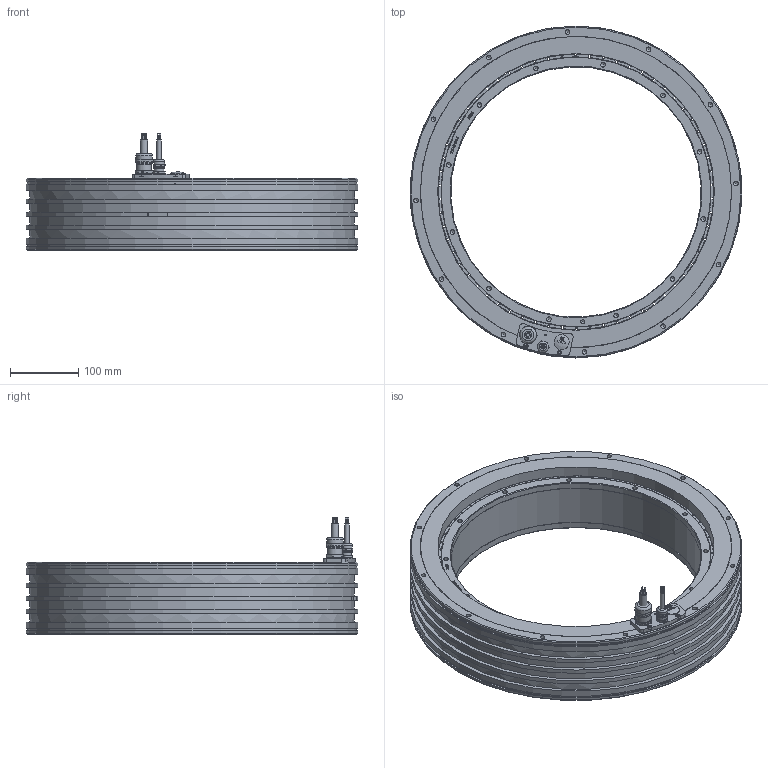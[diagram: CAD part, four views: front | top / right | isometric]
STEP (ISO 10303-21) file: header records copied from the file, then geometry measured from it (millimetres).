
FILE_DESCRIPTION(/* description */ ('QTL-485-105 KIT'),/* implementation_level */ '2;1');
FILE_NAME(/* name */ '1117111_190329',/* time_stamp */ '2020-05-26T10:07:46+02:00',/* author */ ('MTE'),/* organization */ ('TECNOTION'),/* preprocessor_version */ 'ST-DEVELOPER v16.7',/* originating_system */ 'DEX',/* authorisation */ $);
FILE_SCHEMA (('AUTOMOTIVE_DESIGN {1 0 10303 214 3 1 1}'));
Length unit declared in the file: millimetre
Products named in the file (17): 1117111_190329; 1117081_190329_oa_0; 1117001_190425_oa_1; 1116991_190329_oa_2; 1113593_190228_oa_3; 1117431_190402_oa_4; 1117441_190402; 1111681_181205; Sensor cable 4x2x0,18; 1105631_180801; Power cable; SKINDICHT BL-M 20x1,5 + O-Ring      Art_ Nr_ 52103125_Messing vernick
elt; Inbus_M3x10; Resin QTR 485 105_190129; 1117051_190329; 1113574_190514; 1115791_190225
Assembly tree (78 placements, depth 5):
  1117111_190329
    1117081_190329_oa_0
      1117001_190425_oa_1
        1116991_190329_oa_2
          1113593_190228_oa_3
      1117431_190402_oa_4
        1117441_190402
        1111681_181205
        Sensor cable 4x2x0,18
        1105631_180801
        Power cable
        SKINDICHT BL-M 20x1,5 + O-Ring      Art_ Nr_ 52103125_Messing vernick
elt
        Inbus_M3x10  x2
      Resin QTR 485 105_190129
    1117051_190329
      1113574_190514
      1115791_190225  x62
Bounding box: 485 x 485 x 170 mm (x, y, z)
Volume: 7170397.3 mm3; surface area: 1260671.6 mm2
Topology: 73 solids, 73 shells, 2332 faces, 5289 edges, 2681 vertices
Faces by surface type: cylinder 936, plane 765, sphere 498, cone 116, bspline 12, torus 5
Full cylindrical faces by diameter (mm): 1.35 x6, 1.5 x6, 1.598 x4, 2 x4, 2.459 x3, 3 x2, 3.2 x2, 3.5 x1, 5.5 x2, 6 x2, 6.4 x1, 6.5 x2, 6.647 x48, 7 x1, 8.136 x1, 10.16 x1, 10.376 x1, 10.6 x1, 12 x1, 14 x1, 14.528 x1, 14.536 x1, 15.68 x1, 15.98 x1, 18.16 x1, 18.376 x2, 20 x2, 22 x2, 23.52 x1, 23.98 x1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
Entity records: 24720 total; most frequent: CARTESIAN_POINT 5141, DIRECTION 3094, ORIENTED_EDGE 3032, EDGE_CURVE 1516, AXIS2_PLACEMENT_3D 1287, VERTEX_POINT 1128, FACE_BOUND 1072, EDGE_LOOP 1020
